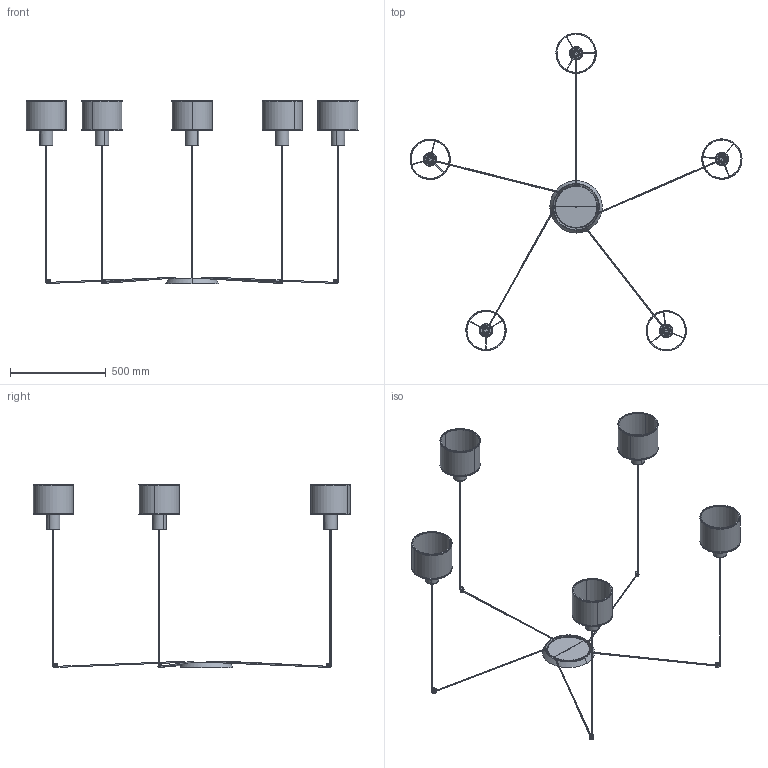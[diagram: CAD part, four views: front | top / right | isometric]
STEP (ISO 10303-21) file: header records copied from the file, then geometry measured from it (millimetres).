
FILE_DESCRIPTION(/* description */ (''),/* implementation_level */ '2;1');
FILE_NAME(/* name */ 'C:\Users\Franco Sartori E\Documents\FARO\DUPLICADO\Modelos\01_Digitalizados\2021\0_MAMBO_SAMBA_CONGA\03_Publicación\64314-47-5L.stp',/* time_stamp */ '2021-02-18T09:21:52+01:00',/* author */ ('Franco Sartori E'),/* organization */ (''),/* preprocessor_version */ 'ST-DEVELOPER v18.1',/* originating_system */ 'AutoCAD Mechanical',/* authorisation */ '');
FILE_SCHEMA (('AUTOMOTIVE_DESIGN { 1 0 10303 214 3 1 1 }'));
Products named in the file (27): Product; CANOPY_5 - 68603-395923-_3D_; MAMBO450_FMA - LH-396918-_3D_; MAMBO450_FMA - LH-396921-_3D_; MAMBO450_FMA - LH-396924-_3D_; MAMBO450_FMA - LH-396927-_3D_; MAMBO450_FMA - LH-396930-_3D_; MAMBO320_FMA - LH-396933-_3D_; MAMBO320_FMA - LH-396935-_3D_; MAMBO320_FMA - LH-396937-_3D_; MAMBO320_FMA - LH-396939-_3D_; MAMBO320_FMA - LH-396941-_3D_; MAMBO210_FMA - LH-396943-_3D_; MAMBO210_FMA - LH-396946-_3D_; MAMBO210_FMA - LH-396949-_3D_; MAMBO210_FMA - LH-396952-_3D_; MAMBO210_FMA - LH-396955-_3D_; CONGA_FMA - LH-396958-_3D_; CONGA_FMA - LH-396961-_3D_; CONGA_FMA - LH-396964-_3D_; CONGA_FMA - LH-396967-_3D_; CONGA_FMA - LH-396970-_3D_; SAMBA_FMA - LH-396973-_3D_; SAMBA_FMA - LH-396977-_3D_; SAMBA_FMA - LH-396981-_3D_; SAMBA_FMA - LH-396985-_3D_; SAMBA_FMA - LH-396989-_3D_
Assembly tree (26 placements, depth 2):
  Product
    CANOPY_5 - 68603-395923-_3D_
    MAMBO450_FMA - LH-396918-_3D_
    MAMBO450_FMA - LH-396921-_3D_
    MAMBO450_FMA - LH-396924-_3D_
    MAMBO450_FMA - LH-396927-_3D_
    MAMBO450_FMA - LH-396930-_3D_
    MAMBO320_FMA - LH-396933-_3D_
    MAMBO320_FMA - LH-396935-_3D_
    MAMBO320_FMA - LH-396937-_3D_
    MAMBO320_FMA - LH-396939-_3D_
    MAMBO320_FMA - LH-396941-_3D_
    MAMBO210_FMA - LH-396943-_3D_
    MAMBO210_FMA - LH-396946-_3D_
    MAMBO210_FMA - LH-396949-_3D_
    MAMBO210_FMA - LH-396952-_3D_
    MAMBO210_FMA - LH-396955-_3D_
    CONGA_FMA - LH-396958-_3D_
    CONGA_FMA - LH-396961-_3D_
    CONGA_FMA - LH-396964-_3D_
    CONGA_FMA - LH-396967-_3D_
    CONGA_FMA - LH-396970-_3D_
    SAMBA_FMA - LH-396973-_3D_
    SAMBA_FMA - LH-396977-_3D_
    SAMBA_FMA - LH-396981-_3D_
    SAMBA_FMA - LH-396985-_3D_
    SAMBA_FMA - LH-396989-_3D_
Bounding box: 1732.07 x 1657.72 x 958.23 mm (x, y, z)
Volume: 929290.6 mm3; surface area: 2003499 mm2
Topology: 102 solids, 102 shells, 1217 faces, 2725 edges, 1596 vertices
Faces by surface type: cylinder 507, plane 478, torus 168, cone 64
Entity records: 47898 total; most frequent: CARTESIAN_POINT 20823, DIRECTION 5619, ORIENTED_EDGE 5430, EDGE_CURVE 2715, AXIS2_PLACEMENT_3D 2281, VERTEX_POINT 1596, EDGE_LOOP 1291, FACE_OUTER_BOUND 1217
